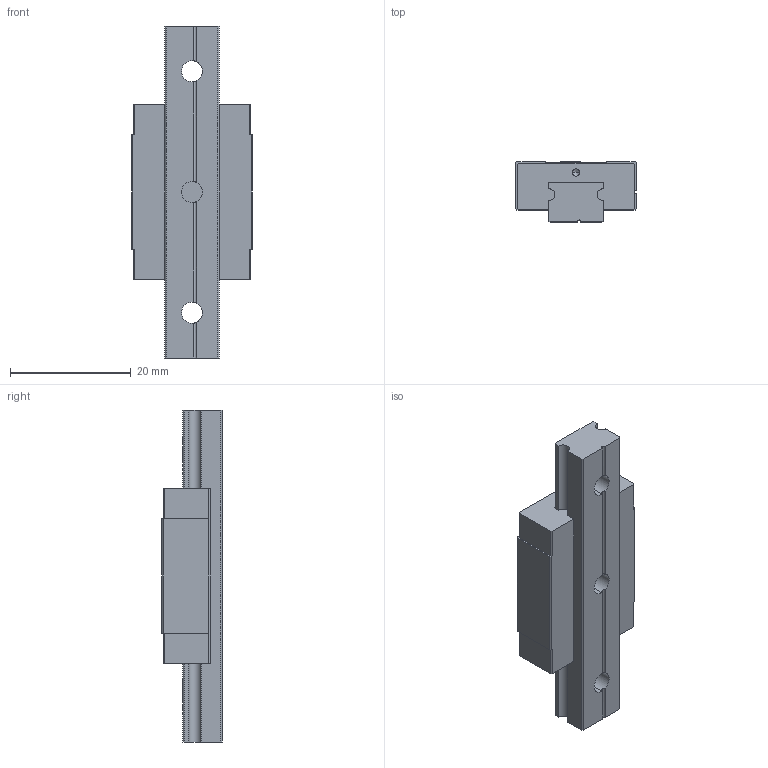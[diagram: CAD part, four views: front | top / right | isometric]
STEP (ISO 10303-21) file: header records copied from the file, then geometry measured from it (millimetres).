
FILE_DESCRIPTION (( 'STEP AP214' ), '1' );
FILE_NAME ('7.1056 Lineaarikelkka MTN9C.STEP', '2026-03-13T11:48:58', ( '' ), ( '' ), 'SwSTEP 2.0', 'SolidWorks 2025', '' );
FILE_SCHEMA (( 'AUTOMOTIVE_DESIGN' ));
Length unit declared in the file: millimetre
Products named in the file (1): 7.1056 Lineaarikelkka MTN9C
Bounding box: 20 x 10 x 55 mm (x, y, z)
Volume: 5981.5 mm3; surface area: 4486.7 mm2
Topology: 2 solids, 2 shells, 202 faces, 542 edges, 350 vertices
Faces by surface type: plane 124, cylinder 36, bspline 30, cone 12
Entity records: 10503 total; most frequent: CARTESIAN_POINT 3396, ORIENTED_EDGE 1060, DIRECTION 882, EDGE_CURVE 530, VECTOR 392, LINE 392, VERTEX_POINT 350, AXIS2_PLACEMENT_3D 245
